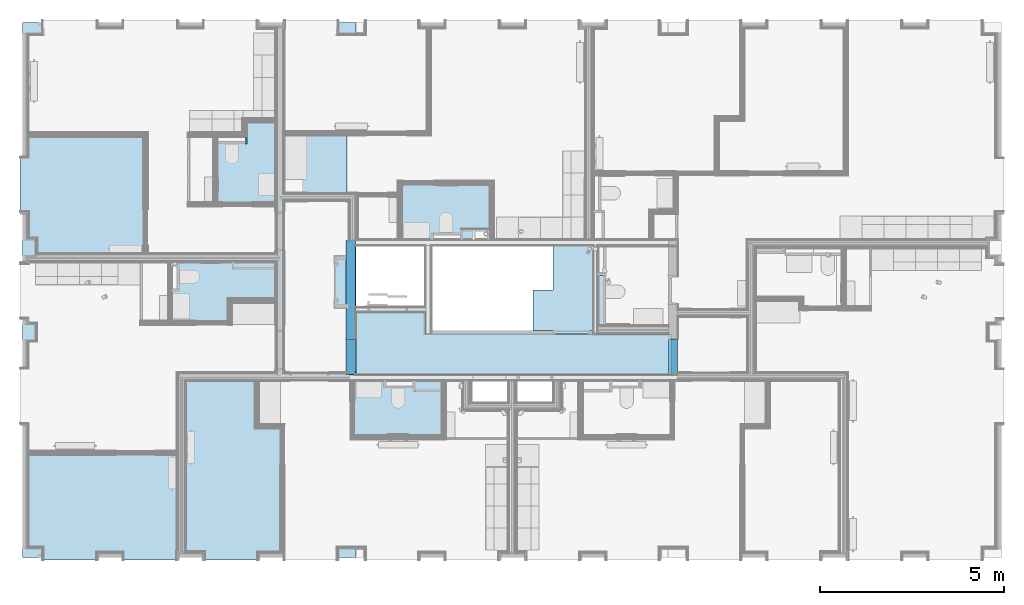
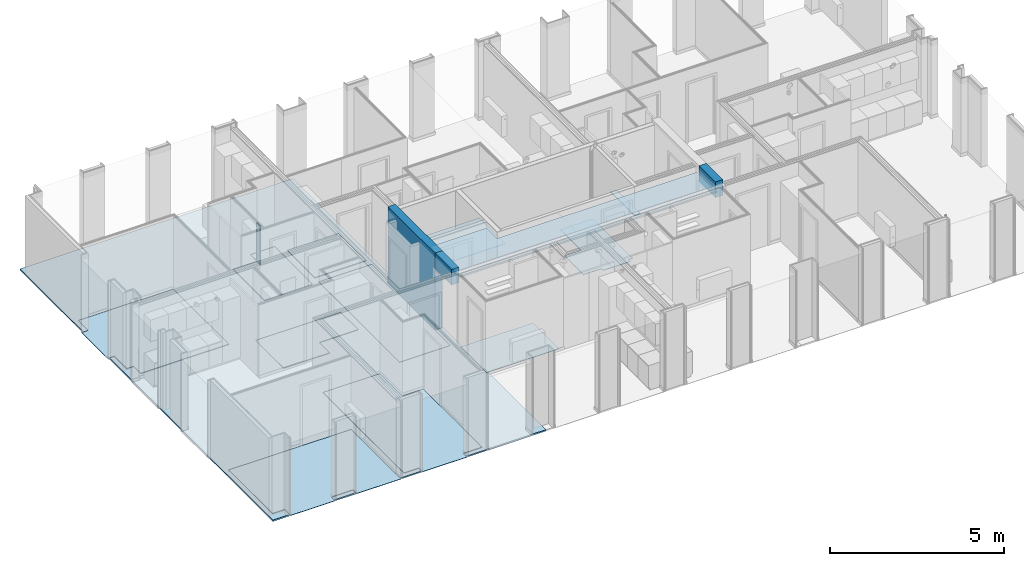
# One storey, part 1 of 82: 15 slabs, 3 beams.
"""IFC2X3 building model written with IfcOpenShell, lengths in metres."""

from ifc_helpers import new_model, entity, si_unit, converted_unit, derived_unit, money_unit, direction, frame, frame_2d, origin_with_axes, place, context, subcontext, project, spatial, rectangle, extrude, faceted_brep, material, type_object, element, save


model = new_model("IFC2X3")

# Units and contexts
model_context = context("Model", 3, precision=1e-05, world=origin_with_axes(), true_north=direction((0.0, 1.0)))
body_context = subcontext(model_context, "Body", "Model", "MODEL_VIEW", scale=1.0)
ifc_project = project(units=[si_unit("LENGTHUNIT", "METRE"), si_unit("AREAUNIT", "SQUARE_METRE"), si_unit("VOLUMEUNIT", "CUBIC_METRE"), si_unit("ABSORBEDDOSEUNIT", "GRAY"), si_unit("AMOUNTOFSUBSTANCEUNIT", "MOLE"), si_unit("DOSEEQUIVALENTUNIT", "SIEVERT"), si_unit("ELECTRICCAPACITANCEUNIT", "FARAD"), si_unit("ELECTRICCHARGEUNIT", "COULOMB"), si_unit("ELECTRICCONDUCTANCEUNIT", "SIEMENS"), si_unit("ELECTRICCURRENTUNIT", "AMPERE"), si_unit("ELECTRICRESISTANCEUNIT", "OHM"), si_unit("ELECTRICVOLTAGEUNIT", "VOLT"), si_unit("ENERGYUNIT", "JOULE"), si_unit("FORCEUNIT", "NEWTON"), si_unit("FREQUENCYUNIT", "HERTZ"), si_unit("ILLUMINANCEUNIT", "LUX"), si_unit("INDUCTANCEUNIT", "HENRY"), si_unit("LUMINOUSFLUXUNIT", "LUMEN"), si_unit("LUMINOUSINTENSITYUNIT", "CANDELA"), si_unit("MAGNETICFLUXDENSITYUNIT", "TESLA"), si_unit("MAGNETICFLUXUNIT", "WEBER"), si_unit("MASSUNIT", "GRAM"), converted_unit("PLANEANGLEUNIT", "degree", entity("IfcReal", 0.0174532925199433), si_unit("PLANEANGLEUNIT", "RADIAN"), dimensions=[0, 0, 0, 0, 0, 0, 0]), si_unit("POWERUNIT", "WATT"), si_unit("PRESSUREUNIT", "PASCAL"), si_unit("RADIOACTIVITYUNIT", "BECQUEREL"), si_unit("SOLIDANGLEUNIT", "STERADIAN"), si_unit("THERMODYNAMICTEMPERATUREUNIT", "KELVIN"), si_unit("TIMEUNIT", "SECOND"), derived_unit("ACCELERATIONUNIT", [(si_unit("LENGTHUNIT", "METRE"), 1), (si_unit("TIMEUNIT", "SECOND"), -2)]), derived_unit("ANGULARVELOCITYUNIT", [(converted_unit("PLANEANGLEUNIT", "degree", entity("IfcReal", 0.0174532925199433), si_unit("PLANEANGLEUNIT", "RADIAN"), dimensions=[0, 0, 0, 0, 0, 0, 0]), 1), (si_unit("TIMEUNIT", "SECOND"), -1)]), derived_unit("CURVATUREUNIT", [(converted_unit("PLANEANGLEUNIT", "degree", entity("IfcReal", 0.0174532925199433), si_unit("PLANEANGLEUNIT", "RADIAN"), dimensions=[0, 0, 0, 0, 0, 0, 0]), 1), (si_unit("LENGTHUNIT", "METRE"), -1)]), derived_unit("DYNAMICVISCOSITYUNIT", [(si_unit("PRESSUREUNIT", "PASCAL"), 1), (si_unit("TIMEUNIT", "SECOND"), 1)]), derived_unit("HEATFLUXDENSITYUNIT", [(si_unit("POWERUNIT", "WATT"), 1), (si_unit("LENGTHUNIT", "METRE"), -2)]), derived_unit("HEATINGVALUEUNIT", [(si_unit("ENERGYUNIT", "JOULE"), 1), (si_unit("MASSUNIT", "GRAM"), -1)]), derived_unit("INTEGERCOUNTRATEUNIT", [(si_unit("TIMEUNIT", "SECOND"), -1)]), derived_unit("IONCONCENTRATIONUNIT", [(si_unit("MASSUNIT", "GRAM"), 1), (si_unit("VOLUMEUNIT", "CUBIC_METRE"), -1)]), derived_unit("ISOTHERMALMOISTURECAPACITYUNIT", [(si_unit("VOLUMEUNIT", "CUBIC_METRE"), 1), (si_unit("MASSUNIT", "GRAM"), -1)]), derived_unit("KINEMATICVISCOSITYUNIT", [(si_unit("AREAUNIT", "SQUARE_METRE"), 1), (si_unit("TIMEUNIT", "SECOND"), -1)]), derived_unit("LINEARFORCEUNIT", [(si_unit("FORCEUNIT", "NEWTON"), 1), (si_unit("LENGTHUNIT", "METRE"), -1)]), derived_unit("LINEARMOMENTUNIT", [(si_unit("FORCEUNIT", "NEWTON"), 1), (si_unit("LENGTHUNIT", "METRE"), -1)]), derived_unit("LINEARSTIFFNESSUNIT", [(si_unit("FORCEUNIT", "NEWTON"), 1), (si_unit("LENGTHUNIT", "METRE"), -1)]), derived_unit("LINEARVELOCITYUNIT", [(si_unit("LENGTHUNIT", "METRE"), 1), (si_unit("TIMEUNIT", "SECOND"), -1)]), derived_unit("LUMINOUSINTENSITYDISTRIBUTIONUNIT", [(si_unit("LUMINOUSINTENSITYUNIT", "CANDELA"), 1), (si_unit("LUMINOUSFLUXUNIT", "LUMEN"), -1)]), derived_unit("MASSDENSITYUNIT", [(si_unit("MASSUNIT", "GRAM"), 1), (si_unit("VOLUMEUNIT", "CUBIC_METRE"), -1)]), derived_unit("MASSFLOWRATEUNIT", [(si_unit("MASSUNIT", "GRAM"), 1), (si_unit("TIMEUNIT", "SECOND"), -1)]), derived_unit("MASSPERLENGTHUNIT", [(si_unit("MASSUNIT", "GRAM"), 1), (si_unit("LENGTHUNIT", "METRE"), -1)]), derived_unit("MODULUSOFELASTICITYUNIT", [(si_unit("FORCEUNIT", "NEWTON"), 1), (si_unit("AREAUNIT", "SQUARE_METRE"), -1)]), derived_unit("MODULUSOFLINEARSUBGRADEREACTIONUNIT", [(si_unit("FORCEUNIT", "NEWTON"), 1), (si_unit("LENGTHUNIT", "METRE"), -2)]), derived_unit("MODULUSOFROTATIONALSUBGRADEREACTIONUNIT", [(si_unit("FORCEUNIT", "NEWTON"), 1), (si_unit("LENGTHUNIT", "METRE"), 1)]), derived_unit("MODULUSOFSUBGRADEREACTIONUNIT", [(si_unit("FORCEUNIT", "NEWTON"), 1), (si_unit("VOLUMEUNIT", "CUBIC_METRE"), -1)]), derived_unit("MOISTUREDIFFUSIVITYUNIT", [(si_unit("VOLUMEUNIT", "CUBIC_METRE"), 1), (si_unit("TIMEUNIT", "SECOND"), -1)]), derived_unit("MOLECULARWEIGHTUNIT", [(si_unit("MASSUNIT", "GRAM"), 1), (si_unit("AMOUNTOFSUBSTANCEUNIT", "MOLE"), -1)]), derived_unit("PLANARFORCEUNIT", [(si_unit("FORCEUNIT", "NEWTON"), 1), (si_unit("LENGTHUNIT", "METRE"), -2)]), derived_unit("ROTATIONALFREQUENCYUNIT", [(si_unit("TIMEUNIT", "SECOND"), -1)]), derived_unit("ROTATIONALMASSUNIT", [(si_unit("MASSUNIT", "GRAM"), 1), (si_unit("LENGTHUNIT", "METRE"), 2)]), derived_unit("ROTATIONALSTIFFNESSUNIT", [(si_unit("FORCEUNIT", "NEWTON"), 1), (si_unit("LENGTHUNIT", "METRE"), 1), (converted_unit("PLANEANGLEUNIT", "degree", entity("IfcReal", 0.0174532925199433), si_unit("PLANEANGLEUNIT", "RADIAN"), dimensions=[0, 0, 0, 0, 0, 0, 0]), -1)]), derived_unit("SECTIONAREAINTEGRALUNIT", [(si_unit("LENGTHUNIT", "METRE"), 5)]), derived_unit("SECTIONMODULUSUNIT", [(si_unit("LENGTHUNIT", "METRE"), 3)]), derived_unit("SHEARMODULUSUNIT", [(si_unit("FORCEUNIT", "NEWTON"), 1), (si_unit("AREAUNIT", "SQUARE_METRE"), -1)]), derived_unit("SOUNDPOWERUNIT", [(si_unit("ENERGYUNIT", "JOULE"), 1), (si_unit("TIMEUNIT", "SECOND"), -1)]), derived_unit("SPECIFICHEATCAPACITYUNIT", [(si_unit("FORCEUNIT", "NEWTON"), 1), (si_unit("MASSUNIT", "GRAM"), -1), (si_unit("THERMODYNAMICTEMPERATUREUNIT", "KELVIN"), -1)]), derived_unit("TEMPERATUREGRADIENTUNIT", [(si_unit("THERMODYNAMICTEMPERATUREUNIT", "KELVIN"), 1), (si_unit("LENGTHUNIT", "METRE"), -1)]), derived_unit("THERMALADMITTANCEUNIT", [(si_unit("POWERUNIT", "WATT"), 1), (si_unit("AREAUNIT", "SQUARE_METRE"), -1), (si_unit("THERMODYNAMICTEMPERATUREUNIT", "KELVIN"), -1)]), derived_unit("THERMALCONDUCTANCEUNIT", [(si_unit("POWERUNIT", "WATT"), 1), (si_unit("LENGTHUNIT", "METRE"), -1), (si_unit("THERMODYNAMICTEMPERATUREUNIT", "KELVIN"), -1)]), derived_unit("THERMALEXPANSIONCOEFFICIENTUNIT", [(si_unit("THERMODYNAMICTEMPERATUREUNIT", "KELVIN"), -1)]), derived_unit("THERMALRESISTANCEUNIT", [(si_unit("AREAUNIT", "SQUARE_METRE"), 1), (si_unit("POWERUNIT", "WATT"), -1)]), derived_unit("THERMALTRANSMITTANCEUNIT", [(si_unit("POWERUNIT", "WATT"), 1), (si_unit("AREAUNIT", "SQUARE_METRE"), -1), (si_unit("THERMODYNAMICTEMPERATUREUNIT", "KELVIN"), -1)]), derived_unit("TORQUEUNIT", [(si_unit("FORCEUNIT", "NEWTON"), 1), (si_unit("LENGTHUNIT", "METRE"), 1)]), derived_unit("VAPORPERMEABILITYUNIT", [(si_unit("MASSUNIT", "GRAM"), 1), (si_unit("TIMEUNIT", "SECOND"), -1)]), derived_unit("VOLUMETRICFLOWRATEUNIT", [(si_unit("VOLUMEUNIT", "CUBIC_METRE"), 1), (si_unit("TIMEUNIT", "SECOND"), -1)]), derived_unit("WARPINGCONSTANTUNIT", [(si_unit("LENGTHUNIT", "METRE"), 6)]), derived_unit("WARPINGMOMENTUNIT", [(si_unit("FORCEUNIT", "NEWTON"), 1), (si_unit("LENGTHUNIT", "METRE"), 2)]), money_unit("GBP")], contexts=[model_context])

# Site, building, storey
site_placement = place(None, origin_with_axes())
site = spatial("IfcSite", under=ifc_project, at=site_placement, Name="Site", CompositionType="ELEMENT")
building_placement = place(site_placement, origin_with_axes())
building = spatial("IfcBuilding", under=site, at=building_placement, Name="Building01", CompositionType="ELEMENT")
storey_placement = place(building_placement, frame((0.0, 0.0, 12.13), z_axis=(0.0, 0.0, 1.0), x_axis=(1.0, 0.0, 0.0)))
storey = spatial("IfcBuildingStorey", under=building, at=storey_placement, Name="3F", CompositionType="ELEMENT", Elevation=12.13)

# Beams
ifc_material_1 = material(Name="S_BSUK_Beams_PrecastConcrete")
beam_type_1 = type_object("IfcBeamType", Name="S-Beams-PrecastConcrete", PredefinedType="BEAM")
beam_1_placement = place(storey_placement, frame((8.975, 6.1, 2.152), z_axis=(0.0, -1.0, 0.0), x_axis=(1.0, 0.0, 0.0)))
element("IfcBeam", 1, at=beam_1_placement, inside=storey, type_object=beam_type_1, material=ifc_material_1, Name="S-Beams-PrecastConcrete", ObjectType="S-Beams-PrecastConcrete", context=body_context, shape_type="SweptSolid", body=[
    extrude(rectangle(XDim=0.548, YDim=0.25, at=frame_2d((0.125, 0.274), x_axis=(0.0, 1.0))), origin_with_axes(), (0.0, 0.0, 1.0), 0.95),
])
beam_2_placement = place(storey_placement, frame((17.75, 8.8, 0.0), z_axis=(0.0, -1.0, 0.0), x_axis=(1.0, 0.0, 0.0)))
element("IfcBeam", 2, at=beam_2_placement, inside=storey, type_object=beam_type_1, material=ifc_material_1, Name="S-Beams-PrecastConcrete", ObjectType="S-Beams-PrecastConcrete", context=body_context, shape_type="Brep", body=[
    faceted_brep([(-8.525418, 0.0, 0.0), (-8.525418, 0.0, 2.7), (-8.775418, 0.0, 2.7), (-8.775418, 0.0, 0.0), (-8.525418, 2.7, 0.0), (-8.525418, 2.7, 2.7), (-8.775418, 2.7, 0.0), (-8.775418, 2.7, 2.7)], [[[0, 1, 2, 3]], [[4, 5, 1, 0]], [[6, 7, 5, 4]], [[3, 2, 7, 6]], [[1, 5, 7, 2]], [[3, 6, 4, 0]]]),
])
beam_type_2 = type_object("IfcBeamType", Name="S-Beams:S_BSUK_Beams_PrecastConcrete", PredefinedType="NOTDEFINED")
beam_3_placement = place(storey_placement, frame((17.75, 6.1, 2.152), z_axis=(0.0, -1.0, 0.0), x_axis=(1.0, 0.0, 0.0)))
element("IfcBeam", 3, at=beam_3_placement, inside=storey, type_object=beam_type_2, material=ifc_material_1, Name="S-Beams--S_BSUK_Beams_PrecastConcrete", ObjectType="S-Beams:S_BSUK_Beams_PrecastConcrete", context=body_context, shape_type="SweptSolid", body=[
    extrude(rectangle(XDim=0.548, YDim=0.25, at=frame_2d((0.125, 0.274), x_axis=(0.0, 1.0))), origin_with_axes(), (0.0, 0.0, 1.0), 0.95),
])

# Slabs
ifc_material_2 = material(Name="A_BSUK_InternalFinishes_FloorScreed")
slab_type_1 = type_object("IfcSlabType", Name="A-FloorsSlabs A_BSUK_Slabs", PredefinedType="FLOOR")
placement = place(storey_placement, frame((0.0, 0.0, -12.13), z_axis=(0.0, 0.0, 1.0), x_axis=(1.0, 0.0, 0.0)))
element("IfcSlab", 4, at=placement, inside=storey, type_object=slab_type_1, material=ifc_material_2, Name="A-FloorsSlabs A_BSUK_Slabs", ObjectType="CompoundSlabLeaf", context=body_context, shape_type="Brep", body=[
    faceted_brep([(0.17, 14.73, 12.08), (0.17, 14.73, 12.13), (9.25, 14.73, 12.13), (9.25, 14.73, 12.08), (0.17, 0.17, 12.08), (0.17, 0.17, 12.13), (9.25, 0.17, 12.08), (9.25, 0.17, 12.13)], [[[0, 1, 2, 3]], [[4, 5, 1, 0]], [[6, 7, 5, 4]], [[3, 2, 7, 6]], [[1, 5, 7, 2]], [[3, 6, 4, 0]]]),
])
ifc_material_3 = material(Name="A_BSUK_Ceramic_WallTiles")
element("IfcSlab", 5, at=placement, inside=storey, type_object=slab_type_1, material=ifc_material_3, Name="A-FloorsSlabs A_BSUK_Slabs", ObjectType="CompoundSlabLeaf", context=body_context, shape_type="Brep", body=[
    faceted_brep([(16.03, 6.475, 13.505), (16.03, 6.475, 13.53), (15.83, 6.475, 13.53), (15.83, 6.475, 13.505), (16.03, 7.849998, 13.505), (16.03, 7.849998, 13.53), (15.830003, 7.85, 13.505), (15.830003, 7.85, 13.53)], [[[0, 1, 2, 3]], [[4, 5, 1, 0]], [[6, 7, 5, 4]], [[3, 2, 7, 6]], [[1, 5, 7, 2]], [[3, 6, 4, 0]]]),
])
ifc_material_4 = material(Name="A_BSUK_ExpandedPolystyreneBoards")
element("IfcSlab", 6, at=placement, inside=storey, type_object=slab_type_1, material=ifc_material_4, Name="A-FloorsSlabs A_BSUK_Slabs", ObjectType="CompoundSlabLeaf", context=body_context, shape_type="Brep", body=[
    faceted_brep([(7.289669, 5.205, 12.13), (7.289669, 5.205, 12.133), (7.289669, 9.862704, 12.133), (7.289669, 9.862704, 12.13), (8.975, 5.205, 12.13), (8.975, 5.205, 12.133), (8.975, 6.968405, 12.13), (8.975, 6.968405, 12.133), (8.975, 8.372405, 12.13), (8.975, 8.372405, 12.133), (8.975, 8.8, 12.13), (8.975, 8.8, 12.133), (9.06, 8.80015, 12.13), (9.06, 8.80015, 12.133), (9.06, 9.862704, 12.13), (9.06, 9.862704, 12.133)], [[[0, 1, 2, 3]], [[4, 5, 1, 0]], [[6, 7, 5, 4]], [[8, 9, 7, 6]], [[10, 11, 9, 8]], [[12, 13, 11, 10]], [[14, 15, 13, 12]], [[3, 2, 15, 14]], [[1, 5, 7, 9, 11, 13, 15, 2]], [[3, 14, 12, 10, 8, 6, 4, 0]]]),
])
ifc_material_5 = material(Name="A_BSUK_Carpet-Pile")
element("IfcSlab", 7, at=placement, inside=storey, type_object=slab_type_1, material=ifc_material_5, Name="A-FloorsSlabs A_BSUK_Slabs", ObjectType="CompoundSlabLeaf", context=body_context, shape_type="Brep", body=[
    faceted_brep([(0.318, 11.63067, 12.133), (0.318, 11.63067, 12.145), (3.474669, 11.63067, 12.145), (3.474669, 11.63067, 12.133), (0.318, 11.055, 12.133), (0.318, 11.055, 12.145), (0.1, 11.055, 12.133), (0.1, 11.055, 12.145), (0.1, 9.56218, 12.133), (0.1, 9.56218, 12.145), (0.318, 9.56218, 12.133), (0.318, 9.56218, 12.145), (0.318, 8.848, 12.133), (0.318, 8.848, 12.145), (0.548, 8.848, 12.133), (0.548, 8.848, 12.145), (0.548, 8.43567, 12.133), (0.548, 8.43567, 12.145), (3.474669, 8.43567, 12.133), (3.474669, 8.43567, 12.145)], [[[0, 1, 2, 3]], [[4, 5, 1, 0]], [[6, 7, 5, 4]], [[8, 9, 7, 6]], [[10, 11, 9, 8]], [[12, 13, 11, 10]], [[14, 15, 13, 12]], [[16, 17, 15, 14]], [[18, 19, 17, 16]], [[3, 2, 19, 18]], [[1, 5, 7, 9, 11, 13, 15, 17, 19, 2]], [[3, 18, 16, 14, 12, 10, 8, 6, 4, 0]]]),
])
ifc_material_6 = material(Name="A_BSUK_Ceramic_FloorTiles")
element("IfcSlab", 8, at=placement, inside=storey, type_object=slab_type_1, material=ifc_material_6, Name="A-FloorsSlabs A_BSUK_Slabs", ObjectType="CompoundSlabLeaf", context=body_context, shape_type="Brep", body=[
    faceted_brep([(5.464669, 10.53067, 12.133), (5.464669, 10.53067, 12.145), (5.464669, 11.63067, 12.145), (5.464669, 11.63067, 12.133), (5.464669, 9.83067, 12.133), (5.464669, 9.83067, 12.145), (7.064669, 9.83067, 12.133), (7.064669, 9.83067, 12.145), (7.064669, 12.01567, 12.133), (7.064669, 12.01567, 12.145), (6.264669, 12.01567, 12.133), (6.264669, 12.01567, 12.145), (6.264669, 11.63067, 12.133), (6.264669, 11.63067, 12.145)], [[[0, 1, 2, 3]], [[4, 5, 1, 0]], [[6, 7, 5, 4]], [[8, 9, 7, 6]], [[10, 11, 9, 8]], [[12, 13, 11, 10]], [[3, 2, 13, 12]], [[1, 5, 7, 9, 11, 13, 2]], [[3, 12, 10, 8, 6, 4, 0]]]),
])
ifc_material_7 = material(Name="A_BSUK_Parquet_Floor")
element("IfcSlab", 9, at=placement, inside=storey, type_object=slab_type_1, material=ifc_material_7, Name="A-FloorsSlabs A_BSUK_Slabs", ObjectType="CompoundSlabLeaf", context=body_context, shape_type="Brep", body=[
    faceted_brep([(7.289669, 10.087704, 12.133), (7.289669, 10.087704, 12.145), (7.289669, 11.668124, 12.145), (7.289669, 11.668124, 12.133), (8.995, 10.087704, 12.133), (8.995, 10.087704, 12.145), (8.995, 11.668124, 12.133), (8.995, 11.668124, 12.145)], [[[0, 1, 2, 3]], [[4, 5, 1, 0]], [[6, 7, 5, 4]], [[3, 2, 7, 6]], [[1, 5, 7, 2]], [[3, 6, 4, 0]]]),
])
element("IfcSlab", 10, at=placement, inside=storey, type_object=slab_type_1, material=ifc_material_6, Name="A-FloorsSlabs A_BSUK_Slabs", ObjectType="CompoundSlabLeaf", context=body_context, shape_type="Brep", body=[
    faceted_brep([(10.488871, 10.32, 12.133), (10.488871, 10.32, 12.145), (12.893585, 10.32, 12.145), (12.893585, 10.32, 12.133), (10.488871, 8.82, 12.133), (10.488871, 8.82, 12.145), (12.893585, 8.82, 12.133), (12.893585, 8.82, 12.145)], [[[0, 1, 2, 3]], [[4, 5, 1, 0]], [[6, 7, 5, 4]], [[3, 2, 7, 6]], [[1, 5, 7, 2]], [[3, 6, 4, 0]]]),
])
element("IfcSlab", 11, at=placement, inside=storey, type_object=slab_type_1, material=ifc_material_6, Name="A-FloorsSlabs A_BSUK_Slabs", ObjectType="CompoundSlabLeaf", context=body_context, shape_type="Brep", body=[
    faceted_brep([(9.192536, 4.98, 12.133), (9.192536, 4.98, 12.145), (11.592536, 4.98, 12.145), (11.592536, 4.98, 12.133), (9.192536, 3.48, 12.133), (9.192536, 3.48, 12.145), (11.592536, 3.48, 12.133), (11.592536, 3.48, 12.145), (11.592536, 4.259428, 12.133), (11.592536, 4.259428, 12.145)], [[[0, 1, 2, 3]], [[4, 5, 1, 0]], [[6, 7, 5, 4]], [[8, 9, 7, 6]], [[3, 2, 9, 8]], [[1, 5, 7, 9, 2]], [[3, 8, 6, 4, 0]]]),
])
element("IfcSlab", 12, at=placement, inside=storey, type_object=slab_type_1, material=ifc_material_5, Name="A-FloorsSlabs A_BSUK_Slabs", ObjectType="CompoundSlabLeaf", context=body_context, shape_type="Brep", body=[
    faceted_brep([(4.61, 4.98, 12.133), (4.61, 4.98, 12.145), (6.5, 4.98, 12.145), (6.5, 4.98, 12.133), (4.61, 0.318, 12.133), (4.61, 0.318, 12.145), (5.105, 0.318, 12.133), (5.105, 0.318, 12.145), (5.105, 0.1, 12.133), (5.105, 0.1, 12.145), (6.575, 0.1, 12.133), (6.575, 0.1, 12.145), (6.575, 0.318, 12.133), (6.575, 0.318, 12.145), (7.2, 0.318, 12.133), (7.2, 0.318, 12.145), (7.2, 3.685, 12.133), (7.2, 3.685, 12.145), (6.5, 3.685, 12.133), (6.5, 3.685, 12.145)], [[[0, 1, 2, 3]], [[4, 5, 1, 0]], [[6, 7, 5, 4]], [[8, 9, 7, 6]], [[10, 11, 9, 8]], [[12, 13, 11, 10]], [[14, 15, 13, 12]], [[16, 17, 15, 14]], [[18, 19, 17, 16]], [[3, 2, 19, 18]], [[1, 5, 7, 9, 11, 13, 15, 17, 19, 2]], [[3, 18, 16, 14, 12, 10, 8, 6, 4, 0]]]),
])
element("IfcSlab", 13, at=placement, inside=storey, type_object=slab_type_1, material=ifc_material_6, Name="A-FloorsSlabs A_BSUK_Slabs", ObjectType="CompoundSlabLeaf", context=body_context, shape_type="Brep", body=[
    faceted_brep([(4.24073, 8.21067, 12.133), (4.24073, 8.21067, 12.145), (7.064669, 8.21067, 12.145), (7.064669, 8.21067, 12.133), (4.24073, 6.606475, 12.133), (4.24073, 6.606475, 12.145), (5.769669, 6.606475, 12.133), (5.769669, 6.606475, 12.145), (5.769669, 7.206475, 12.133), (5.769669, 7.206475, 12.145), (7.064669, 7.206475, 12.133), (7.064669, 7.206475, 12.145)], [[[0, 1, 2, 3]], [[4, 5, 1, 0]], [[6, 7, 5, 4]], [[8, 9, 7, 6]], [[10, 11, 9, 8]], [[3, 2, 11, 10]], [[1, 5, 7, 9, 11, 2]], [[3, 10, 8, 6, 4, 0]]]),
])
element("IfcSlab", 14, at=placement, inside=storey, type_object=slab_type_1, material=ifc_material_5, Name="A-FloorsSlabs A_BSUK_Slabs", ObjectType="CompoundSlabLeaf", context=body_context, shape_type="Brep", body=[
    faceted_brep([(0.318, 0.448, 12.133), (0.318, 0.448, 12.145), (0.318, 2.970286, 12.145), (0.318, 2.970286, 12.133), (0.725, 0.448, 12.133), (0.725, 0.448, 12.145), (0.725, 0.1, 12.133), (0.725, 0.1, 12.145), (2.195, 0.1, 12.133), (2.195, 0.1, 12.145), (2.195, 0.318, 12.133), (2.195, 0.318, 12.145), (2.915, 0.318, 12.133), (2.915, 0.318, 12.145), (2.915, 0.1, 12.133), (2.915, 0.1, 12.145), (4.385, 0.1, 12.133), (4.385, 0.1, 12.145), (4.385, 2.970286, 12.133), (4.385, 2.970286, 12.145)], [[[0, 1, 2, 3]], [[4, 5, 1, 0]], [[6, 7, 5, 4]], [[8, 9, 7, 6]], [[10, 11, 9, 8]], [[12, 13, 11, 10]], [[14, 15, 13, 12]], [[16, 17, 15, 14]], [[18, 19, 17, 16]], [[3, 2, 19, 18]], [[1, 5, 7, 9, 11, 13, 15, 17, 19, 2]], [[3, 18, 16, 14, 12, 10, 8, 6, 4, 0]]]),
])
element("IfcSlab", 15, at=placement, inside=storey, type_object=slab_type_1, material=ifc_material_5, Name="A-FloorsSlabs A_BSUK_Slabs", ObjectType="CompoundSlabLeaf", context=body_context, shape_type="Brep", body=[
    faceted_brep([(14.609584, 7.454282, 12.133), (14.609584, 7.454282, 12.145), (14.609584, 8.65, 12.145), (14.609584, 8.65, 12.133), (14.059316, 7.454282, 12.133), (14.059316, 7.454282, 12.145), (14.059316, 6.35, 12.133), (14.059316, 6.35, 12.145), (14.658, 6.35, 12.133), (14.658, 6.35, 12.145), (14.658, 6.25, 12.133), (14.658, 6.25, 12.145), (15.558, 6.25, 12.133), (15.558, 6.25, 12.145), (15.558, 6.35, 12.133), (15.558, 6.35, 12.145), (15.7, 6.35, 12.133), (15.7, 6.35, 12.145), (15.7, 8.65, 12.133), (15.7, 8.65, 12.145)], [[[0, 1, 2, 3]], [[4, 5, 1, 0]], [[6, 7, 5, 4]], [[8, 9, 7, 6]], [[10, 11, 9, 8]], [[12, 13, 11, 10]], [[14, 15, 13, 12]], [[16, 17, 15, 14]], [[18, 19, 17, 16]], [[3, 2, 19, 18]], [[1, 5, 7, 9, 11, 13, 15, 17, 19, 2]], [[3, 18, 16, 14, 12, 10, 8, 6, 4, 0]]]),
])
element("IfcSlab", 16, at=placement, inside=storey, type_object=slab_type_1, material=ifc_material_3, Name="A-FloorsSlabs A_BSUK_Slabs", ObjectType="CompoundSlabLeaf", context=body_context, shape_type="Brep", body=[
    faceted_brep([(6.239669, 11.43067, 13.505), (6.264669, 11.43067, 13.505), (6.264669, 11.63067, 13.505), (6.239669, 11.63067, 13.505), (6.239669, 11.430672, 12.13), (6.264669, 11.430672, 12.13), (6.239669, 11.63067, 12.13), (6.264669, 11.63067, 12.13)], [[[0, 1, 2, 3]], [[4, 5, 1, 0]], [[6, 7, 5, 4]], [[3, 2, 7, 6]], [[1, 5, 7, 2]], [[3, 6, 4, 0]]]),
])
ifc_material_8 = material(Name="A_BSUK_CeilingSoffitFinishes_Suspended")
element("IfcSlab", 17, at=placement, inside=storey, type_object=slab_type_1, material=ifc_material_8, Name="A-FloorsSlabs A_BSUK_Slabs", ObjectType="CompoundSlabLeaf", context=body_context, shape_type="Brep", body=[
    faceted_brep([(9.25, 5.15, 14.443), (9.25, 5.15, 14.458), (9.25, 6.85, 14.458), (9.25, 6.85, 14.443), (17.83, 5.15, 14.443), (17.83, 5.15, 14.458), (17.83, 6.25, 14.443), (17.83, 6.25, 14.458), (15.679803, 6.25, 14.443), (15.679803, 6.25, 14.458), (11.13, 6.25, 14.443), (11.13, 6.25, 14.458), (11.13, 6.85, 14.443), (11.13, 6.85, 14.458)], [[[0, 1, 2, 3]], [[4, 5, 1, 0]], [[6, 7, 5, 4]], [[8, 9, 7, 6]], [[10, 11, 9, 8]], [[12, 13, 11, 10]], [[3, 2, 13, 12]], [[1, 5, 7, 9, 11, 13, 2]], [[3, 12, 10, 8, 6, 4, 0]]]),
])
slab_type_2 = type_object("IfcSlabType", Name="A-FloorsSlabs A_BSUK_ExpandedPolystyreneBoards", PredefinedType="FLOOR")
element("IfcSlab", 18, at=placement, inside=storey, type_object=slab_type_2, material=ifc_material_4, Name="A-FloorsSlabs A_BSUK_ExpandedPolystyreneBoards", ObjectType="CompoundSlabLeaf", context=body_context, shape_type="Brep", body=[
    faceted_brep([(9.25, 5.15, 14.458), (9.25, 5.15, 14.508), (9.25, 6.85, 14.508), (9.25, 6.85, 14.458), (17.83, 5.15, 14.458), (17.83, 5.15, 14.508), (17.83, 6.25, 14.458), (17.83, 6.25, 14.508), (15.679803, 6.25, 14.458), (15.679803, 6.25, 14.508), (11.13, 6.25, 14.458), (11.13, 6.25, 14.508), (11.13, 6.85, 14.458), (11.13, 6.85, 14.508)], [[[0, 1, 2, 3]], [[4, 5, 1, 0]], [[6, 7, 5, 4]], [[8, 9, 7, 6]], [[10, 11, 9, 8]], [[12, 13, 11, 10]], [[3, 2, 13, 12]], [[1, 5, 7, 9, 11, 13, 2]], [[3, 12, 10, 8, 6, 4, 0]]]),
])

save(model, "model.ifc")
